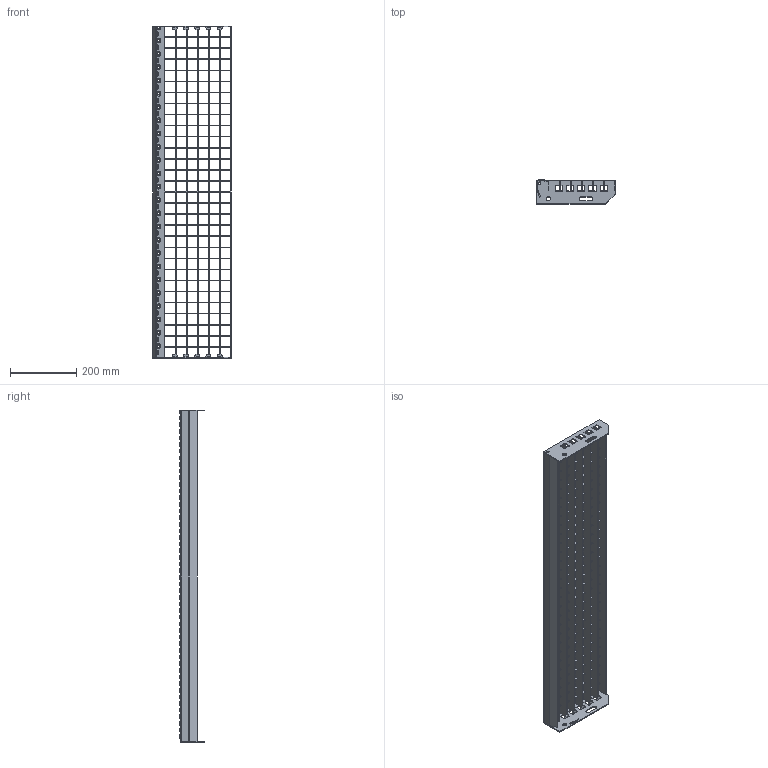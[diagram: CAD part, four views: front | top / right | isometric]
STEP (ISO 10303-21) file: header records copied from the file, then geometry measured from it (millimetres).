
FILE_DESCRIPTION(/* description */ ('','CAx-IF Rec.Pracs.---Representation and Presentation of Product Manufacturing Information (PMI)---3.8---2014-02-18'),/* implementation_level */ '2;1');
FILE_NAME(/* name */ 'C:\Users\phaverkotte\Desktop\Lager STEP\P-Stufen\P 230-33-2\P 230-33-2 1000mm x 240mm.stp',/* time_stamp */ '2018-03-24T09:38:13+01:00',/* author */ ('phaverkotte'),/* organization */ (''),/* preprocessor_version */ 'ST-DEVELOPER v16.13',/* originating_system */ 'Autodesk Inventor 2018',/* authorisation */ '');
FILE_SCHEMA (('AP242_MANAGED_MODEL_BASED_3D_ENGINEERING_MIM_LF { 1 0 10303 442 1 1 4 }'));
Length unit declared in the file: millimetre
Products named in the file (8): Schodišťový stupeň přím
ý lisovaný; Seitenplatte ausgeklinkt links; Seitenplatte 240 ausgeklinkt extern rechts; Schod nášlap; P Rošt schodu; Querstab; P Nosný pás; Hinteres Flach
Assembly tree (40 placements, depth 3):
  Schodišťový stupeň přím
ý lisovaný
    Seitenplatte ausgeklinkt links
    Seitenplatte 240 ausgeklinkt extern rechts
    Schod nášlap
    P Rošt schodu
      Querstab  x29
      P Nosný pás  x6
      Hinteres Flach
Bounding box: 236.98 x 72.75 x 1000 mm (x, y, z)
Volume: 795380.9 mm3; surface area: 809026 mm2
Topology: 39 solids, 39 shells, 1530 faces, 4197 edges, 2762 vertices
Faces by surface type: plane 1198, cone 150, cylinder 112, torus 50, bspline 20
Full cylindrical faces by diameter (mm): 8 x2, 13 x2
Entity records: 26137 total; most frequent: CARTESIAN_POINT 7341, DIRECTION 3752, ORIENTED_EDGE 3524, EDGE_CURVE 1762, AXIS2_PLACEMENT_3D 1256, LINE 1240, VECTOR 1240, VERTEX_POINT 1239
